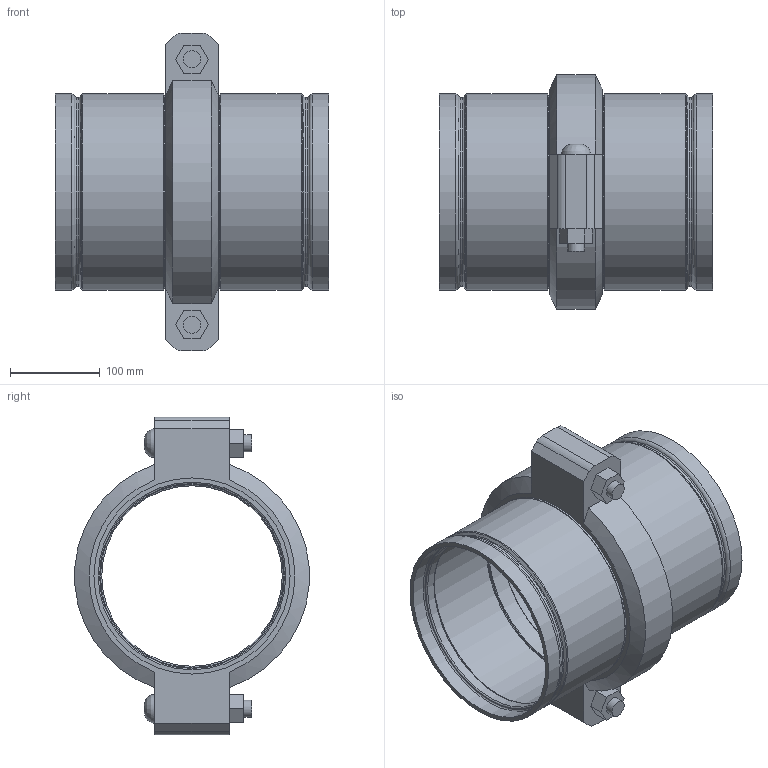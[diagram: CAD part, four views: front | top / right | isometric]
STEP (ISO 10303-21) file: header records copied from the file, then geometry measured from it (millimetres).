
FILE_DESCRIPTION(/* description */ ('VIC STRENGTHIN 100 EXPANSION JOINT 1 COUPLING COMPRESSED STYLE E155 (ST1)','CAx-IF Rec.Pracs.---Representation and Presentation of Product Manufacturing Information (PMI)---4.0---2014-10-13'),/* implementation_level */ '2;1');
FILE_NAME(/* name */ 'C:\Users\Vjadhav\AppData\Roaming\Autodesk\ApplicationPlugins\Victaulic.Temp\A42\Victaulic_SS-StrengThin 100_Expansion Joint_Compressed_1 Coupling_Style E155 (ST1)_8 (200).stp',/* time_stamp */ '2021-07-23T12:24:28+06:00',/* author */ ('kkamble'),/* organization */ ('Victaulic'),/* preprocessor_version */ 'ST-DEVELOPER v17.2',/* originating_system */ 'Autodesk Inventor 2019',/* authorisation */ '');
FILE_SCHEMA (('AP242_MANAGED_MODEL_BASED_3D_ENGINEERING_MIM_LF { 1 0 10303 442 1 1 4 }'));
Length unit declared in the file: inch
Products named in the file (3): E155-08.0; E494G-08.0; 075-08.0
Assembly tree (3 placements, depth 2):
  E155-08.0
    E494G-08.0  x2
    075-08.0
Bounding box: 305.56 x 261.72 x 354.84 mm (x, y, z)
Volume: 2407532.6 mm3; surface area: 607177.7 mm2
Topology: 3 solids, 5 shells, 123 faces, 357 edges, 260 vertices
Faces by surface type: plane 48, cylinder 33, torus 32, cone 8, bspline 2
Full cylindrical faces by diameter (mm): 19.05 x4, 21.209 x2, 201.651 x2, 204.851 x2, 209.525 x6, 211.201 x2, 214.401 x2, 219.075 x7
Entity records: 3198 total; most frequent: CARTESIAN_POINT 577, DIRECTION 561, ORIENTED_EDGE 484, EDGE_CURVE 242, AXIS2_PLACEMENT_3D 235, VERTEX_POINT 173, CIRCLE 143, EDGE_LOOP 107
